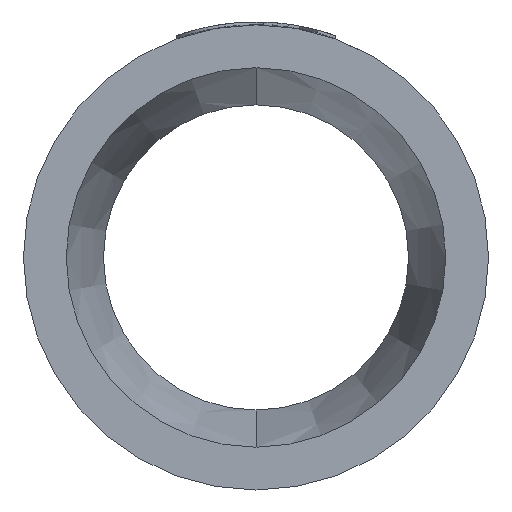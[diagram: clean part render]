
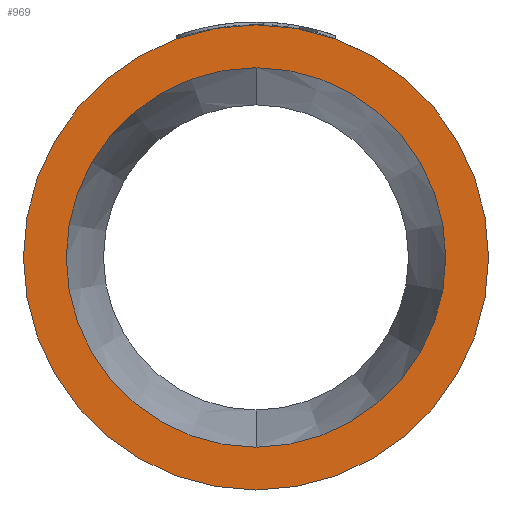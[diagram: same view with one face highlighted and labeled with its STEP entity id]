
A CAD part, left-side view. The second image highlights one B-rep face of the part: STEP entity #969.
In plain terms, the highlighted planar face has unit normal (-1, 0, 0).
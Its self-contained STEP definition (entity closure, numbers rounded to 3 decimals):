
#205 = DIRECTION ( 'NONE',  ( 0., 0., -1. ) ) ;
#223 = VERTEX_POINT ( 'NONE', #280 ) ;
#250 = FACE_OUTER_BOUND ( 'NONE', #672, .T. ) ;
#280 = CARTESIAN_POINT ( 'NONE',  ( 0., 0., -30.6 ) ) ;
#319 = EDGE_CURVE ( 'NONE', #223, #500, #1661, .T. ) ;
#346 = CARTESIAN_POINT ( 'NONE',  ( 0., 0., 30.6 ) ) ;
#500 = VERTEX_POINT ( 'NONE', #346 ) ;
#548 = CIRCLE ( 'NONE', #1695, 30.6 ) ;
#672 = EDGE_LOOP ( 'NONE', ( #2860, #2780 ) ) ;
#905 = ORIENTED_EDGE ( 'NONE', *, *, #2892, .F. ) ;
#969 = ADVANCED_FACE ( 'NONE', ( #1144, #250 ), #1374, .F. ) ;
#1016 = AXIS2_PLACEMENT_3D ( 'NONE', #1117, #3128, #3327 ) ;
#1117 = CARTESIAN_POINT ( 'NONE',  ( 0., 0., 0. ) ) ;
#1144 = FACE_BOUND ( 'NONE', #1154, .T. ) ;
#1154 = EDGE_LOOP ( 'NONE', ( #905, #2445 ) ) ;
#1186 = AXIS2_PLACEMENT_3D ( 'NONE', #2784, #1236, #3040 ) ;
#1236 = DIRECTION ( 'NONE',  ( -1., 0., 0. ) ) ;
#1374 = PLANE ( 'NONE',  #2363 ) ;
#1430 = DIRECTION ( 'NONE',  ( -1., 0., 0. ) ) ;
#1459 = AXIS2_PLACEMENT_3D ( 'NONE', #3045, #1509, #3309 ) ;
#1509 = DIRECTION ( 'NONE',  ( -1., 0., 0. ) ) ;
#1661 = CIRCLE ( 'NONE', #1016, 30.6 ) ;
#1695 = AXIS2_PLACEMENT_3D ( 'NONE', #2968, #1430, #3225 ) ;
#1766 = DIRECTION ( 'NONE',  ( 1., 0., 0. ) ) ;
#1789 = CIRCLE ( 'NONE', #1459, 37.5 ) ;
#1805 = EDGE_CURVE ( 'NONE', #2045, #2570, #2836, .T. ) ;
#1813 = CARTESIAN_POINT ( 'NONE',  ( 0., 0., -37.5 ) ) ;
#2045 = VERTEX_POINT ( 'NONE', #3177 ) ;
#2363 = AXIS2_PLACEMENT_3D ( 'NONE', #3304, #1766, #205 ) ;
#2445 = ORIENTED_EDGE ( 'NONE', *, *, #319, .F. ) ;
#2510 = EDGE_CURVE ( 'NONE', #2570, #2045, #1789, .T. ) ;
#2570 = VERTEX_POINT ( 'NONE', #1813 ) ;
#2780 = ORIENTED_EDGE ( 'NONE', *, *, #2510, .T. ) ;
#2784 = CARTESIAN_POINT ( 'NONE',  ( 0., 0., 0. ) ) ;
#2836 = CIRCLE ( 'NONE', #1186, 37.5 ) ;
#2860 = ORIENTED_EDGE ( 'NONE', *, *, #1805, .T. ) ;
#2892 = EDGE_CURVE ( 'NONE', #500, #223, #548, .T. ) ;
#2968 = CARTESIAN_POINT ( 'NONE',  ( 0., 0., 0. ) ) ;
#3040 = DIRECTION ( 'NONE',  ( 0., 0., 1. ) ) ;
#3045 = CARTESIAN_POINT ( 'NONE',  ( 0., 0., 0. ) ) ;
#3128 = DIRECTION ( 'NONE',  ( -1., 0., 0. ) ) ;
#3177 = CARTESIAN_POINT ( 'NONE',  ( 0., 0., 37.5 ) ) ;
#3225 = DIRECTION ( 'NONE',  ( 0., 0., 1. ) ) ;
#3304 = CARTESIAN_POINT ( 'NONE',  ( 0., 30.6, 0. ) ) ;
#3309 = DIRECTION ( 'NONE',  ( 0., 0., 1. ) ) ;
#3327 = DIRECTION ( 'NONE',  ( 0., 0., 1. ) ) ;
